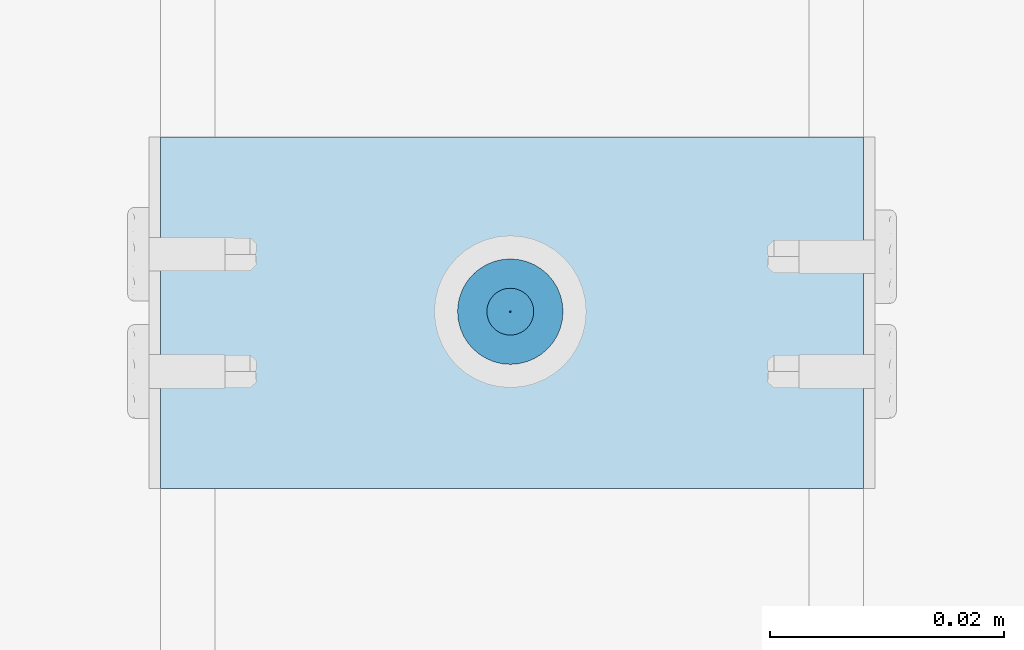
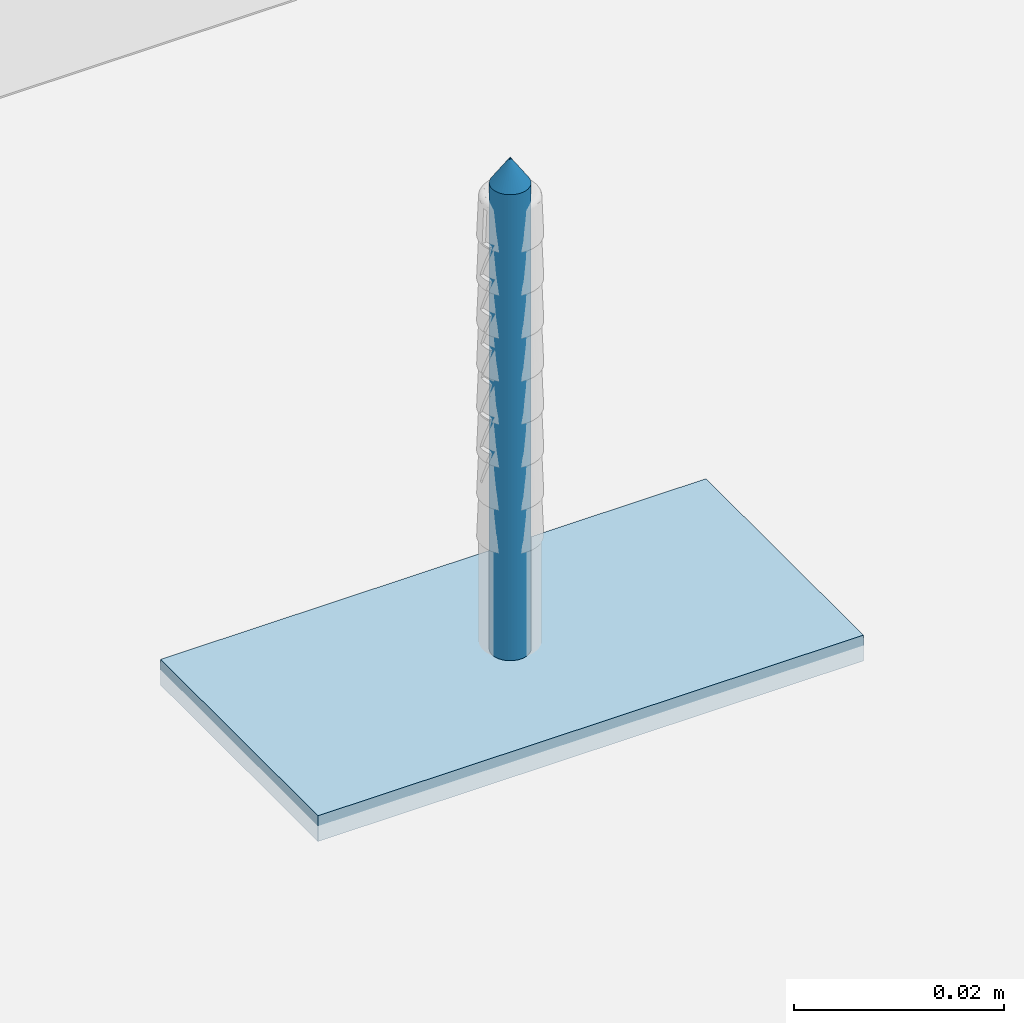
# One storey, part 4 of 62: 2 slabs.
"""IFC2X3 building model written with IfcOpenShell, lengths in millimetres."""

from ifc_helpers import new_model, entity, si_unit, converted_unit, direction, frame, origin, origin_with_axes, place, context, project, spatial, faceted_brep, element, save


model = new_model("IFC2X3")

# Units and contexts
model_context = context("Model", 3, precision=1e-05, world=origin(), true_north=direction((0.0, 1.0, 0.0)))
ifc_project = project(units=[si_unit("LENGTHUNIT", "METRE", prefix="MILLI"), si_unit("AREAUNIT", "SQUARE_METRE"), si_unit("VOLUMEUNIT", "CUBIC_METRE"), converted_unit("PLANEANGLEUNIT", "DEGREE", entity("IfcPlaneAngleMeasure", 0.01745), si_unit("PLANEANGLEUNIT", "RADIAN"), dimensions=[0, 0, 0, 0, 0, 0, 0]), si_unit("SOLIDANGLEUNIT", "STERADIAN"), si_unit("MASSUNIT", "GRAM"), si_unit("TIMEUNIT", "SECOND"), si_unit("THERMODYNAMICTEMPERATUREUNIT", "DEGREE_CELSIUS"), si_unit("LUMINOUSINTENSITYUNIT", "LUMEN")], contexts=[model_context])

# Site, building, storey
site_placement = place(None, origin_with_axes())
site = spatial("IfcSite", under=ifc_project, at=site_placement, Name="Default Site", CompositionType="ELEMENT")
building_placement = place(site_placement, origin_with_axes())
building = spatial("IfcBuilding", under=site, at=building_placement, Name="Default Building", CompositionType="ELEMENT")
storey_placement = place(building_placement, origin_with_axes())
storey = spatial("IfcBuildingStorey", under=building, at=storey_placement, Name="Default Building Storey", CompositionType="ELEMENT", Elevation=0.0)

# Slabs
slab_1_placement = place(storey_placement, frame((6616.179814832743, 408.8922130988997, 1384.974461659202), z_axis=(-6.858158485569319e-13, 6.095830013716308e-13, -1.0), x_axis=(-1.647602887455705e-11, -1.0, -6.095830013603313e-13)))
element("IfcSlab", 1, at=slab_1_placement, inside=storey, Name="Stalowe elementy mocujące", context=model_context, shape_type="Brep", body=[
    faceted_brep([(-1438.31414949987, 3453.283223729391, -0.4642567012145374), (-1435.814149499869, 3453.283223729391, -3.464256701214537), (-1435.78952618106, 3452.97035479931, -3.464256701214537), (-1438.258747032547, 3452.57926863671, -0.4642567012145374), (-1435.71626253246, 3452.665189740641, -3.464256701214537), (-1438.093903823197, 3451.892647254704, -0.4642567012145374), (-1435.596162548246, 3452.375242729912, -3.464256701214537), (-1437.823678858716, 3451.240266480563, -0.4642567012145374), (-1435.432183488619, 3452.107653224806, -3.464256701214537), (-1437.454725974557, 3450.638190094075, -0.4642567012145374), (-1435.228363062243, 3451.869010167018, -3.464256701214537), (-1436.996130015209, 3450.101243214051, -0.4642567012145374), (-1434.989720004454, 3451.665189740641, -3.464256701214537), (-1436.459183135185, 3449.642647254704, -0.4642567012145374), (-1434.722130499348, 3451.501210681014, -3.464256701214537), (-1435.857106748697, 3449.273694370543, -0.4642567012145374), (-1434.432183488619, 3451.381110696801, -3.464256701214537), (-1435.204725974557, 3449.003469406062, -0.4642567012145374), (-1434.12701842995, 3451.307847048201, -3.464256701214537), (-1434.51810459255, 3448.838626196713, -0.4642567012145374), (-1433.814149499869, 3451.283223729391, -3.464256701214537), (-1433.814149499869, 3448.783223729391, -0.4642567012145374), (-1433.501280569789, 3451.307847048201, -3.464256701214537), (-1433.110194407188, 3448.838626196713, -0.4642567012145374), (-1433.19611551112, 3451.381110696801, -3.464256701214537), (-1432.423573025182, 3449.003469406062, -0.4642567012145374), (-1432.906168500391, 3451.501210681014, -3.464256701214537), (-1431.771192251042, 3449.273694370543, -0.4642567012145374), (-1432.638578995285, 3451.665189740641, -3.464256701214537), (-1431.169115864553, 3449.642647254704, -0.4642567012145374), (-1432.399935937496, 3451.869010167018, -3.464256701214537), (-1430.63216898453, 3450.101243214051, -0.4642567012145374), (-1432.196115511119, 3452.107653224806, -3.464256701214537), (-1430.173573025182, 3450.638190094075, -0.4642567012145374), (-1432.032136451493, 3452.375242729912, -3.464256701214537), (-1429.804620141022, 3451.240266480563, -0.4642567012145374), (-1431.912036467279, 3452.665189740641, -3.464256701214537), (-1429.534395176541, 3451.892647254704, -0.4642567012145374), (-1431.838772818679, 3453.596092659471, -3.464256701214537), (-1429.369551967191, 3453.987178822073, -0.4642567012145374), (-1429.314149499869, 3453.283223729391, -0.4642567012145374), (-1431.81414949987, 3453.283223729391, -3.464256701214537), (-1429.369551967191, 3452.57926863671, -0.4642567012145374), (-1431.838772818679, 3452.97035479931, -3.464256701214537), (-1431.912036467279, 3453.901257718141, -3.464256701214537), (-1429.534395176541, 3454.673800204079, -0.4642567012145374), (-1432.032136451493, 3454.19120472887, -3.464256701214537), (-1429.804620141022, 3455.326180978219, -0.4642567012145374), (-1432.196115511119, 3454.458794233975, -3.464256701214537), (-1430.173573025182, 3455.928257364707, -0.4642567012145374), (-1432.399935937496, 3454.697437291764, -3.464256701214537), (-1430.63216898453, 3456.465204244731, -0.4642567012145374), (-1432.638578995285, 3454.901257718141, -3.464256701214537), (-1431.169115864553, 3456.923800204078, -0.4642567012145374), (-1432.906168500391, 3455.065236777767, -3.464256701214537), (-1431.771192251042, 3457.292753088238, -0.4642567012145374), (-1433.19611551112, 3455.185336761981, -3.464256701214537), (-1432.423573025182, 3457.562978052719, -0.4642567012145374), (-1433.501280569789, 3455.258600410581, -3.464256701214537), (-1433.110194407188, 3457.727821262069, -0.4642567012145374), (-1433.814149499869, 3455.283223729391, -3.464256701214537), (-1433.814149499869, 3457.783223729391, -0.4642567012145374), (-1434.34306778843, 3457.752031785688, -0.4642567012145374), (-1434.12701842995, 3455.258600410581, -3.464256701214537), (-1434.432183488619, 3455.185336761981, -3.464256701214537), (-1434.864653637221, 3457.658888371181, -0.4642567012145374), (-1435.371676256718, 3457.505084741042, -0.4642567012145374), (-1434.722130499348, 3455.065236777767, -3.464256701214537), (-1435.857106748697, 3457.292753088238, -0.4642567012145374), (-1434.989720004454, 3454.901257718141, -3.464256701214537), (-1435.228363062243, 3454.697437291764, -3.464256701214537), (-1436.314215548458, 3457.024836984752, -0.4642567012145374), (-1436.736665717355, 3456.705050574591, -0.4642567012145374), (-1437.11860079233, 3456.337827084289, -0.4642567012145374), (-1437.454725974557, 3455.928257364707, -0.4642567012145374), (-1435.432183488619, 3454.458794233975, -3.464256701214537), (-1435.596162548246, 3454.19120472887, -3.464256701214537), (-1437.823678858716, 3455.326180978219, -0.4642567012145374), (-1435.71626253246, 3453.901257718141, -3.464256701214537), (-1438.093903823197, 3454.673800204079, -0.4642567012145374), (-1435.78952618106, 3453.596092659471, -3.464256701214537), (-1438.258747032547, 3453.987178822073, -0.4642567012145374), (-1434.205235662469, 3455.752444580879, 0.2007375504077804), (-1433.814149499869, 3455.78322372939, 0.2007375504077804), (-1434.586691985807, 3455.660865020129, 0.2007375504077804), (-1434.949125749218, 3455.510740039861, 0.2007375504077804), (-1435.283612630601, 3455.305766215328, 0.2007375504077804), (-1435.581916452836, 3455.050990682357, 0.2007375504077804), (-1435.836691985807, 3454.752686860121, 0.2007375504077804), (-1436.04166581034, 3454.41819997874, 0.2007375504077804), (-1436.191790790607, 3454.055766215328, 0.2007375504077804), (-1436.283370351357, 3453.674309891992, 0.2007375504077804), (-1436.314149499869, 3453.283223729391, 0.2007375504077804), (-1436.283370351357, 3452.892137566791, 0.2007375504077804), (-1436.191790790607, 3452.510681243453, 0.2007375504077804), (-1436.04166581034, 3452.148247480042, 0.2007375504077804), (-1435.836691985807, 3451.81376059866, 0.200737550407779), (-1435.581916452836, 3451.515456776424, 0.2007375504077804), (-1435.283612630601, 3451.260681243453, 0.2007375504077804), (-1434.949125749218, 3451.05570741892, 0.2007375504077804), (-1434.586691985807, 3450.905582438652, 0.2007375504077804), (-1433.423063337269, 3450.814002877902, 0.2007375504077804), (-1433.814149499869, 3450.783223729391, 0.2007375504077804), (-1434.205235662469, 3450.814002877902, 0.2007375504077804), (-1433.041607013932, 3450.905582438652, 0.2007375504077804), (-1432.67917325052, 3451.05570741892, 0.2007375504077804), (-1432.344686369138, 3451.260681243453, 0.2007375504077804), (-1432.046382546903, 3451.515456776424, 0.2007375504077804), (-1431.791607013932, 3451.81376059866, 0.2007375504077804), (-1431.586633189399, 3452.148247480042, 0.2007375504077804), (-1431.436508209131, 3452.510681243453, 0.2007375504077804), (-1431.344928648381, 3452.892137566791, 0.2007375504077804), (-1431.314149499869, 3453.283223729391, 0.2007375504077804), (-1431.344928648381, 3453.674309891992, 0.2007375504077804), (-1431.436508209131, 3454.055766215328, 0.2007375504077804), (-1431.586633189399, 3454.41819997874, 0.2007375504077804), (-1431.791607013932, 3454.752686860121, 0.2007375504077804), (-1432.046382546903, 3455.050990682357, 0.2007375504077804), (-1432.344686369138, 3455.305766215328, 0.2007375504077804), (-1432.67917325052, 3455.510740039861, 0.2007375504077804), (-1433.041607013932, 3455.660865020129, 0.2007375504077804), (-1433.423063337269, 3455.752444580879, 0.2007375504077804), (-1433.814149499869, 3453.283223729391, -63.46425670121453), (-1435.789526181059, 3452.97035479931, -60.46425670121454), (-1435.814149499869, 3453.283223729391, -60.46425670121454), (-1435.716262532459, 3452.665189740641, -60.46425670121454), (-1435.596162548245, 3452.375242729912, -60.46425670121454), (-1435.432183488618, 3452.107653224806, -60.46425670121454), (-1435.228363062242, 3451.869010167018, -60.46425670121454), (-1434.989720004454, 3451.665189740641, -60.46425670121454), (-1434.722130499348, 3451.501210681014, -60.46425670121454), (-1434.432183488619, 3451.381110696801, -60.46425670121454), (-1434.127018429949, 3451.307847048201, -60.46425670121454), (-1433.814149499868, 3451.283223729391, -60.46425670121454), (-1433.501280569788, 3451.307847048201, -60.46425670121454), (-1433.196115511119, 3451.381110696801, -60.46425670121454), (-1432.90616850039, 3451.501210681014, -60.46425670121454), (-1432.638578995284, 3451.665189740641, -60.46425670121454), (-1432.399935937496, 3451.869010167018, -60.46425670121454), (-1432.196115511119, 3452.107653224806, -60.46425670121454), (-1432.032136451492, 3452.375242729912, -60.46425670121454), (-1431.912036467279, 3452.665189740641, -60.46425670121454), (-1431.838772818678, 3452.97035479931, -60.46425670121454), (-1431.814149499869, 3453.283223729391, -60.46425670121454), (-1431.838772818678, 3453.596092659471, -60.46425670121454), (-1431.912036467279, 3453.901257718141, -60.46425670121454), (-1432.032136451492, 3454.19120472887, -60.46425670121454), (-1432.196115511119, 3454.458794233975, -60.46425670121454), (-1432.399935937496, 3454.697437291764, -60.46425670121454), (-1432.638578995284, 3454.901257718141, -60.46425670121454), (-1432.90616850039, 3455.065236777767, -60.46425670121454), (-1433.196115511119, 3455.185336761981, -60.46425670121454), (-1433.501280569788, 3455.258600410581, -60.46425670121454), (-1433.814149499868, 3455.283223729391, -60.46425670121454), (-1434.127018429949, 3455.258600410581, -60.46425670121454), (-1434.432183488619, 3455.185336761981, -60.46425670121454), (-1434.722130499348, 3455.065236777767, -60.46425670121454), (-1434.989720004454, 3454.901257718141, -60.46425670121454), (-1435.228363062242, 3454.697437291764, -60.46425670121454), (-1435.432183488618, 3454.458794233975, -60.46425670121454), (-1435.596162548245, 3454.19120472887, -60.46425670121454), (-1435.716262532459, 3453.901257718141, -60.46425670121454), (-1435.789526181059, 3453.596092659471, -60.46425670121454), (-1435.814149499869, 3453.783223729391, 0.04999999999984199), (-1436.04166581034, 3454.41819997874, 0.04999999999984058), (-1436.191790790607, 3454.055766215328, 0.04999999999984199), (-1435.814149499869, 3452.783223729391, 0.04999999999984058), (-1434.314149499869, 3453.783223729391, 0.04999999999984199), (-1434.314149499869, 3455.28322372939, 0.04999999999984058), (-1433.314149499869, 3455.28322372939, 0.04999999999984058), (-1433.314149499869, 3453.783223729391, 0.04999999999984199), (-1431.814149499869, 3453.783223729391, 0.04999999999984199), (-1431.814149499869, 3452.783223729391, 0.04999999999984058), (-1433.314149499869, 3452.783223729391, 0.04999999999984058), (-1433.314149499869, 3451.283223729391, 0.04999999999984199), (-1434.314149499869, 3451.283223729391, 0.04999999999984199), (-1434.314149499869, 3452.783223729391, 0.04999999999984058), (-1436.283370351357, 3453.674309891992, 0.04999999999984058), (-1436.314149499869, 3453.283223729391, 0.04999999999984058), (-1436.283370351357, 3452.892137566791, 0.04999999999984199), (-1436.191790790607, 3452.510681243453, 0.04999999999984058), (-1436.04166581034, 3452.148247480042, 0.04999999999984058), (-1435.836691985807, 3451.81376059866, 0.04999999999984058), (-1435.581916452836, 3451.515456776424, 0.04999999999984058), (-1435.283612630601, 3451.260681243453, 0.04999999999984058), (-1434.949125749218, 3451.05570741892, 0.04999999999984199), (-1434.586691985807, 3450.905582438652, 0.04999999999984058), (-1434.205235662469, 3450.814002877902, 0.04999999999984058), (-1433.814149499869, 3450.783223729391, 0.04999999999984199), (-1433.423063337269, 3450.814002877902, 0.04999999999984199), (-1433.041607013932, 3450.905582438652, 0.04999999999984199), (-1432.67917325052, 3451.05570741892, 0.04999999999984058), (-1432.344686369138, 3451.260681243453, 0.04999999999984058), (-1432.046382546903, 3451.515456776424, 0.04999999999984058), (-1431.791607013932, 3451.81376059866, 0.04999999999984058), (-1431.586633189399, 3452.148247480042, 0.04999999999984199), (-1431.436508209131, 3452.510681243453, 0.04999999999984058), (-1431.344928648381, 3452.892137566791, 0.04999999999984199), (-1431.314149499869, 3453.283223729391, 0.04999999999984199), (-1431.344928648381, 3453.674309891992, 0.04999999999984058), (-1431.436508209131, 3454.055766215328, 0.04999999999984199), (-1431.586633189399, 3454.41819997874, 0.04999999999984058), (-1431.791607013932, 3454.752686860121, 0.04999999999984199), (-1432.046382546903, 3455.050990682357, 0.04999999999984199), (-1432.344686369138, 3455.305766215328, 0.04999999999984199), (-1432.67917325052, 3455.510740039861, 0.04999999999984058), (-1433.041607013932, 3455.660865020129, 0.04999999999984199), (-1433.423063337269, 3455.752444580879, 0.04999999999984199), (-1433.814149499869, 3455.78322372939, 0.04999999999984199), (-1434.205235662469, 3455.752444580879, 0.04999999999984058), (-1434.586691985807, 3455.660865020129, 0.04999999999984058), (-1434.949125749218, 3455.510740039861, 0.04999999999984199), (-1435.283612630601, 3455.305766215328, 0.04999999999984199), (-1435.581916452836, 3455.050990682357, 0.04999999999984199), (-1435.836691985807, 3454.752686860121, 0.04999999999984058), (-1434.314149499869, 3452.783223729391, -1.79926244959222), (-1434.314149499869, 3451.283223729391, -1.799262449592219), (-1433.314149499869, 3451.283223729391, -1.799262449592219), (-1433.314149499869, 3452.783223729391, -1.79926244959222), (-1431.81414949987, 3452.783223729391, -1.79926244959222), (-1431.81414949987, 3453.783223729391, -1.799262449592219), (-1433.314149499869, 3453.783223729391, -1.799262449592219), (-1433.314149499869, 3455.28322372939, -1.79926244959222), (-1434.314149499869, 3455.28322372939, -1.79926244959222), (-1434.314149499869, 3453.783223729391, -1.799262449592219), (-1435.814149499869, 3453.783223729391, -1.799262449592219), (-1435.814149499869, 3452.783223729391, -1.79926244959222)], [[[0, 1, 2, 3]], [[4, 5, 3, 2]], [[6, 7, 5, 4]], [[7, 6, 8, 9]], [[10, 11, 9, 8]], [[11, 10, 12, 13]], [[14, 15, 13, 12]], [[16, 17, 15, 14]], [[17, 16, 18, 19]], [[20, 21, 19, 18]], [[21, 20, 22, 23]], [[24, 25, 23, 22]], [[26, 27, 25, 24]], [[27, 26, 28, 29]], [[30, 31, 29, 28]], [[31, 30, 32, 33]], [[34, 35, 33, 32]], [[36, 37, 35, 34]], [[38, 39, 40, 41]], [[41, 40, 42, 43]], [[37, 36, 43, 42]], [[44, 45, 39, 38]], [[46, 47, 45, 44]], [[47, 46, 48, 49]], [[50, 51, 49, 48]], [[51, 50, 52, 53]], [[54, 55, 53, 52]], [[56, 57, 55, 54]], [[57, 56, 58, 59]], [[60, 61, 59, 58]], [[62, 61, 63]], [[61, 60, 63]], [[63, 64, 62]], [[64, 65, 62]], [[66, 65, 64]], [[64, 67, 66]], [[67, 68, 66]], [[69, 70, 71]], [[70, 72, 71]], [[71, 68, 69]], [[68, 67, 69]], [[70, 73, 72]], [[74, 73, 75]], [[73, 70, 75]], [[76, 77, 74, 75]], [[78, 79, 77, 76]], [[79, 78, 80, 81]], [[1, 0, 81, 80]], [[82, 83, 62]], [[83, 61, 62]], [[62, 65, 82]], [[65, 84, 82]], [[66, 68, 84]], [[68, 85, 84]], [[84, 65, 66]], [[86, 85, 71]], [[85, 68, 71]], [[72, 73, 87]], [[87, 86, 72]], [[86, 71, 72]], [[88, 87, 74]], [[87, 73, 74]], [[77, 89, 88, 74]], [[79, 90, 89, 77]], [[90, 79, 81, 91]], [[0, 92, 91, 81]], [[92, 0, 3, 93]], [[5, 94, 93, 3]], [[7, 95, 94, 5]], [[95, 7, 9, 96]], [[11, 97, 96, 9]], [[97, 11, 13, 98]], [[15, 99, 98, 13]], [[17, 100, 99, 15]], [[23, 101, 102, 21]], [[21, 102, 103, 19]], [[100, 17, 19, 103]], [[25, 104, 101, 23]], [[27, 105, 104, 25]], [[105, 27, 29, 106]], [[31, 107, 106, 29]], [[107, 31, 33, 108]], [[35, 109, 108, 33]], [[37, 110, 109, 35]], [[110, 37, 42, 111]], [[40, 112, 111, 42]], [[112, 40, 39, 113]], [[45, 114, 113, 39]], [[47, 115, 114, 45]], [[115, 47, 49, 116]], [[51, 117, 116, 49]], [[117, 51, 53, 118]], [[55, 119, 118, 53]], [[57, 120, 119, 55]], [[120, 57, 59, 121]], [[61, 83, 121, 59]], [[122, 123, 124]], [[122, 125, 123]], [[122, 126, 125]], [[127, 126, 122]], [[122, 128, 127]], [[129, 128, 122]], [[122, 130, 129]], [[122, 131, 130]], [[132, 131, 122]], [[122, 133, 132]], [[134, 133, 122]], [[122, 135, 134]], [[122, 136, 135]], [[137, 136, 122]], [[122, 138, 137]], [[139, 138, 122]], [[122, 140, 139]], [[122, 141, 140]], [[142, 141, 122]], [[122, 143, 142]], [[144, 143, 122]], [[122, 145, 144]], [[122, 146, 145]], [[147, 146, 122]], [[122, 148, 147]], [[149, 148, 122]], [[122, 150, 149]], [[122, 151, 150]], [[152, 151, 122]], [[122, 153, 152]], [[154, 153, 122]], [[122, 155, 154]], [[122, 156, 155]], [[157, 156, 122]], [[122, 158, 157]], [[159, 158, 122]], [[122, 160, 159]], [[122, 161, 160]], [[162, 161, 122]], [[124, 162, 122]], [[1, 124, 123, 2]], [[125, 4, 2, 123]], [[126, 6, 4, 125]], [[6, 126, 127, 8]], [[128, 10, 8, 127]], [[10, 128, 129, 12]], [[130, 14, 12, 129]], [[131, 16, 14, 130]], [[16, 131, 132, 18]], [[133, 20, 18, 132]], [[20, 133, 134, 22]], [[135, 24, 22, 134]], [[136, 26, 24, 135]], [[26, 136, 137, 28]], [[138, 30, 28, 137]], [[30, 138, 139, 32]], [[140, 34, 32, 139]], [[141, 36, 34, 140]], [[144, 38, 41, 143]], [[143, 41, 43, 142]], [[36, 141, 142, 43]], [[145, 44, 38, 144]], [[146, 46, 44, 145]], [[46, 146, 147, 48]], [[148, 50, 48, 147]], [[50, 148, 149, 52]], [[150, 54, 52, 149]], [[151, 56, 54, 150]], [[56, 151, 152, 58]], [[153, 60, 58, 152]], [[60, 153, 154, 63]], [[155, 64, 63, 154]], [[156, 67, 64, 155]], [[67, 156, 157, 69]], [[158, 70, 69, 157]], [[70, 158, 159, 75]], [[160, 76, 75, 159]], [[161, 78, 76, 160]], [[78, 161, 162, 80]], [[124, 1, 80, 162]], [[163, 164, 165, 166]], [[163, 167, 168, 169, 170, 171, 172, 173, 174, 175, 176, 166, 165, 177, 178, 179, 180, 181, 182, 183, 184, 185, 186, 187, 188, 189, 190, 191, 192, 193, 194, 195, 196, 197, 198, 199, 200, 201, 202, 203, 204, 205, 206, 207, 208, 209, 210, 211, 212, 213, 214, 164]], [[199, 198, 112, 113]], [[113, 114, 200, 199]], [[114, 115, 201, 200]], [[202, 201, 115, 116]], [[116, 117, 203, 202]], [[204, 203, 117, 118]], [[118, 119, 205, 204]], [[119, 120, 206, 205]], [[207, 206, 120, 121]], [[121, 83, 208, 207]], [[209, 208, 83, 82]], [[82, 84, 210, 209]], [[84, 85, 211, 210]], [[212, 211, 85, 86]], [[86, 87, 213, 212]], [[214, 213, 87, 88]], [[88, 89, 164, 214]], [[89, 90, 165, 164]], [[92, 93, 179, 178]], [[91, 92, 178, 177]], [[177, 165, 90, 91]], [[93, 94, 180, 179]], [[94, 95, 181, 180]], [[182, 181, 95, 96]], [[96, 97, 183, 182]], [[184, 183, 97, 98]], [[98, 99, 185, 184]], [[99, 100, 186, 185]], [[187, 186, 100, 103]], [[103, 102, 188, 187]], [[189, 188, 102, 101]], [[101, 104, 190, 189]], [[104, 105, 191, 190]], [[192, 191, 105, 106]], [[106, 107, 193, 192]], [[194, 193, 107, 108]], [[108, 109, 195, 194]], [[109, 110, 196, 195]], [[197, 196, 110, 111]], [[111, 112, 198, 197]], [[215, 216, 217, 218, 219, 220, 221, 222, 223, 224, 225, 226]], [[216, 175, 174, 217]], [[215, 176, 175, 216]], [[226, 166, 176, 215]], [[225, 163, 166, 226]], [[224, 167, 163, 225]], [[223, 168, 167, 224]], [[222, 169, 168, 223]], [[221, 170, 169, 222]], [[220, 171, 170, 221]], [[219, 172, 171, 220]], [[218, 173, 172, 219]], [[217, 174, 173, 218]]]),
])
slab_2_placement = place(storey_placement, frame((3133.040618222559, 1827.603855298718, 1388.424461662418), z_axis=(0.0, -1.0, -6.86006806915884e-13), x_axis=(1.0, 0.0, 0.0)))
element("IfcSlab", 2, at=slab_2_placement, inside=storey, Name="Taśma uszczelniająca piankowa RIGIPS szer.30mm", context=model_context, shape_type="Brep", body=[
    faceted_brep([(59.99999999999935, 0.0, 4.511946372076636e-12), (0.0, 0.0, 0.0), (1.082867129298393e-12, -2.237925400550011e-11, -30.00000000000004), (60.00000000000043, -2.237925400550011e-11, -29.99999999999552), (0.0, 3.00000000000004, 0.0), (1.082867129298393e-12, 2.999999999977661, -30.00000000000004), (60.00000000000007, 3.00000000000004, 0.0), (60.00000000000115, 2.999999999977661, -30.00000000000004)], [[[0, 1, 2, 3]], [[1, 4, 5, 2]], [[4, 6, 7, 5]], [[6, 0, 3, 7]], [[7, 3, 2, 5]], [[0, 6, 4, 1]]]),
])

save(model, "model.ifc")
